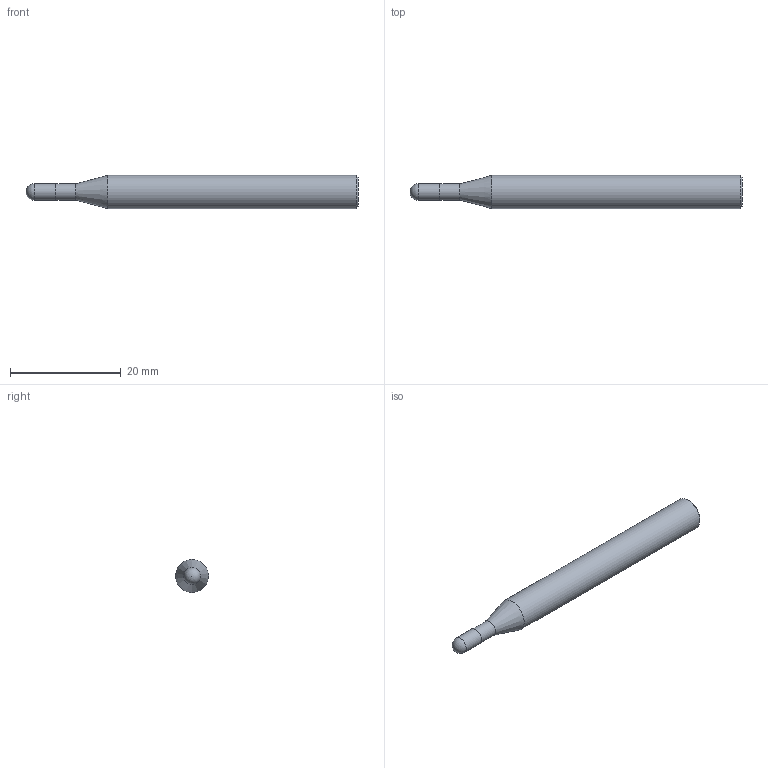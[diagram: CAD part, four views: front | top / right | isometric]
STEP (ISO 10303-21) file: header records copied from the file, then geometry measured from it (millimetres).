
FILE_DESCRIPTION(/* description */ (''),/* implementation_level */ '2;1');
FILE_NAME(/* name */ 'HSXBC4030 0660.stp',/* time_stamp */ '2026-01-27T10:27:45+08:00',/* author */ (''),/* organization */ (''),/* preprocessor_version */ 'ST-DEVELOPER v16',/* originating_system */ 'SIEMENS PLM Software NX 10.0',/* authorisation */ '');
FILE_SCHEMA (('CONFIG_CONTROL_DESIGN'));
Length unit declared in the file: millimetre
Products named in the file (1): HSXBC4030 0660_dxf
Bounding box: 60 x 6 x 6 mm (x, y, z)
Volume: 1429.6 mm3; surface area: 1045 mm2
Topology: 1 solids, 1 shells, 8 faces, 15 edges, 9 vertices
Faces by surface type: cylinder 3, plane 2, cone 2, sphere 1
Full cylindrical faces by diameter (mm): 2.9 x1, 3 x1, 6 x1
Entity records: 238 total; most frequent: DIRECTION 32, CARTESIAN_POINT 23, AXIS2_PLACEMENT_3D 16, EDGE_LOOP 14, ORIENTED_EDGE 14, FACE_BOUND 12, ADVANCED_FACE 8, PERSON_AND_ORGANIZATION 7
